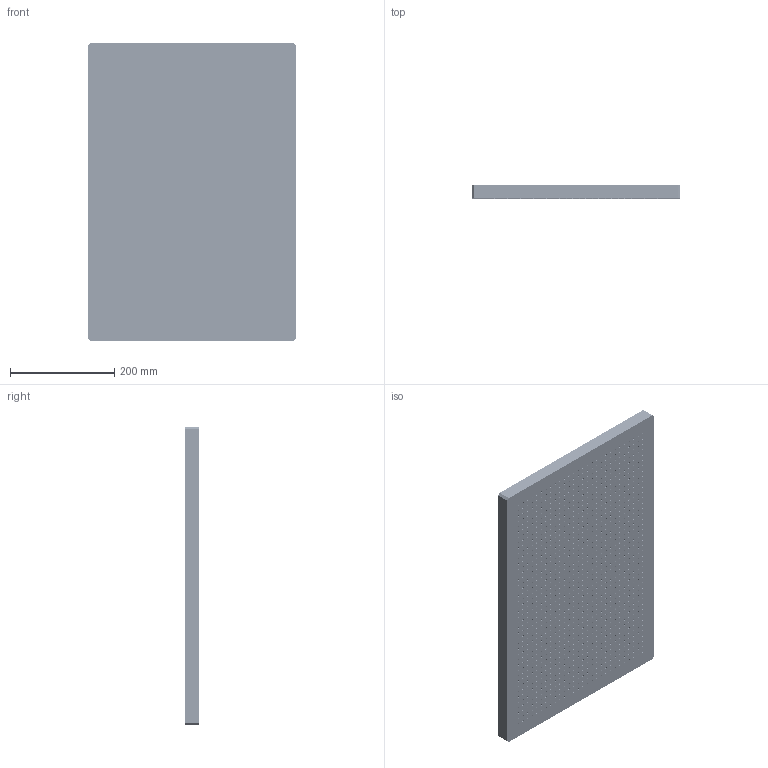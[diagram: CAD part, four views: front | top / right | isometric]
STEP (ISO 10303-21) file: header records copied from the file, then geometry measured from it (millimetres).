
FILE_DESCRIPTION(/* description */ (''),/* implementation_level */ '2;1');
FILE_NAME(/* name */ '',/* time_stamp */ '2025-12-22T12:12:08+08:00',/* author */ ('Q'),/* organization */ (''),/* preprocessor_version */ 'ST-DEVELOPER v20',/* originating_system */ 'Autodesk Inventor 2025',/* authorisation */ '');
FILE_SCHEMA (('AUTOMOTIVE_DESIGN { 1 0 10303 214 3 1 1 }'));
Products named in the file (1): 光学平板for493前级V2
Bounding box: 397.5 x 25 x 572.5 mm (x, y, z)
Volume: 5535514.1 mm3; surface area: 668530.1 mm2
Topology: 1 solids, 1 shells, 2950 faces, 4434 edges, 2956 vertices
Faces by surface type: plane 1480, cylinder 1470
Full cylindrical faces by diameter (mm): 3.242 x1176, 4.917 x294
Entity records: 66481 total; most frequent: DIRECTION 13276, CARTESIAN_POINT 10341, ORIENTED_EDGE 8868, AXIS2_PLACEMENT_3D 5891, EDGE_CURVE 4434, EDGE_LOOP 4420, VERTEX_POINT 2956, FACE_OUTER_BOUND 2950
